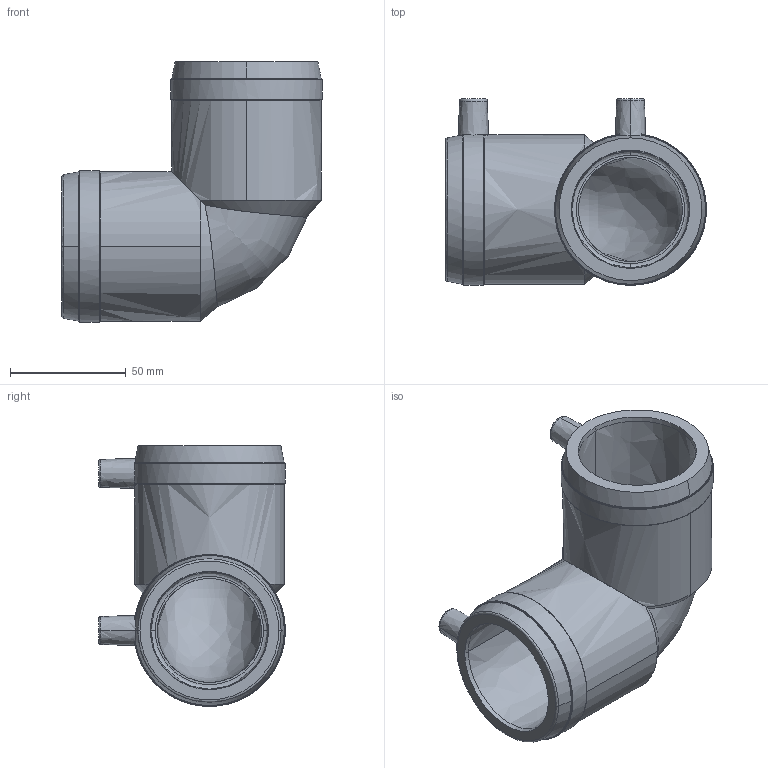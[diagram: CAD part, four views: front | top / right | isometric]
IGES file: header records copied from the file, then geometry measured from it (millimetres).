
Start section:  PTC IGES file: w90_d050_01.igs
Global section: file name: w90_d050_01.igs; native system: Pro/ENGINEER by Parametric Technology Corporation; preprocessor: 2011490; author: mtunjic; organization: Unknown; date: 20130812.093248; units: millimetre
Bounding box: 112.82 x 80.8 x 112.82 mm (x, y, z)
Surface area: 56475 mm2 (no closed solid volume)
Topology: 0 solids, 0 shells, 226 faces, 1120 edges, 1120 vertices
Faces by surface type: bspline 226
